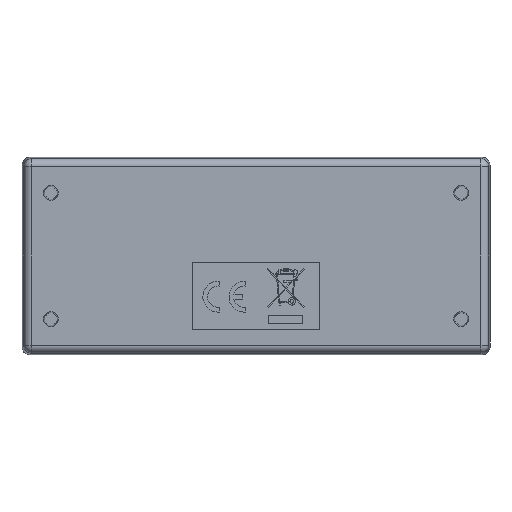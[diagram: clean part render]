
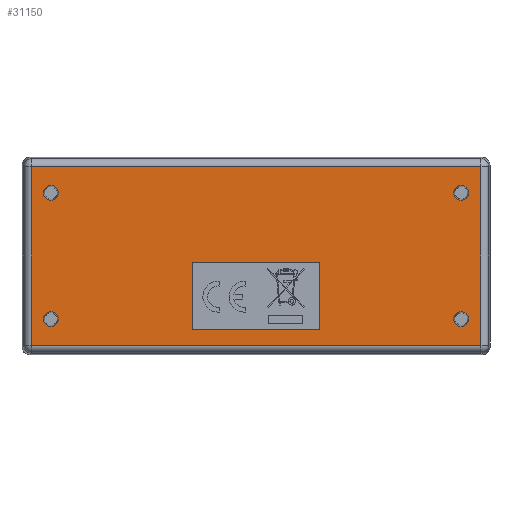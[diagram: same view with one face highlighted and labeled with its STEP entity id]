
A CAD part, front view. The second image highlights one B-rep face of the part: STEP entity #31150.
In plain terms, the highlighted planar face has unit normal (0, -1, 0) as drawn and (0, 0, -1) by its records, which use the part's own axes.
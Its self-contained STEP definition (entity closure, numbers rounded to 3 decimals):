
#14861=CIRCLE('',#32669,0.122);
#14862=CIRCLE('',#32670,0.122);
#14863=CIRCLE('',#32671,0.122);
#14864=CIRCLE('',#32672,0.122);
#15945=VERTEX_POINT('',#41580);
#15946=VERTEX_POINT('',#41582);
#15948=VERTEX_POINT('',#41588);
#15950=VERTEX_POINT('',#41594);
#16071=VERTEX_POINT('',#42666);
#16072=VERTEX_POINT('',#42668);
#16073=VERTEX_POINT('',#42670);
#16074=VERTEX_POINT('',#42672);
#16075=VERTEX_POINT('',#42674);
#16076=VERTEX_POINT('',#42675);
#16077=VERTEX_POINT('',#42677);
#16078=VERTEX_POINT('',#42679);
#17880=VECTOR('',#35991,1.);
#17883=VECTOR('',#35995,1.);
#17886=VECTOR('',#35999,1.);
#17889=VECTOR('',#36003,1.);
#18050=VECTOR('',#36236,1.);
#18051=VECTOR('',#36237,1.);
#18052=VECTOR('',#36238,1.);
#18053=VECTOR('',#36239,1.);
#19932=LINE('',#41581,#17880);
#19935=LINE('',#41587,#17883);
#19938=LINE('',#41593,#17886);
#19941=LINE('',#41598,#17889);
#20102=LINE('',#42673,#18050);
#20103=LINE('',#42676,#18051);
#20104=LINE('',#42678,#18052);
#20105=LINE('',#42680,#18053);
#22178=EDGE_CURVE('',#15946,#15945,#19932,.F.);
#22181=EDGE_CURVE('',#15948,#15946,#19935,.F.);
#22184=EDGE_CURVE('',#15950,#15948,#19938,.F.);
#22187=EDGE_CURVE('',#15945,#15950,#19941,.F.);
#22368=EDGE_CURVE('',#16071,#16071,#14861,.F.);
#22369=EDGE_CURVE('',#16072,#16072,#14862,.F.);
#22370=EDGE_CURVE('',#16073,#16073,#14863,.F.);
#22371=EDGE_CURVE('',#16074,#16074,#14864,.F.);
#22372=EDGE_CURVE('',#16075,#16076,#20102,.T.);
#22373=EDGE_CURVE('',#16077,#16075,#20103,.T.);
#22374=EDGE_CURVE('',#16078,#16077,#20104,.T.);
#22375=EDGE_CURVE('',#16076,#16078,#20105,.T.);
#26434=ORIENTED_EDGE('',*,*,#22368,.T.);
#26435=ORIENTED_EDGE('',*,*,#22369,.T.);
#26436=ORIENTED_EDGE('',*,*,#22370,.T.);
#26437=ORIENTED_EDGE('',*,*,#22371,.T.);
#26438=ORIENTED_EDGE('',*,*,#22372,.F.);
#26439=ORIENTED_EDGE('',*,*,#22373,.F.);
#26440=ORIENTED_EDGE('',*,*,#22374,.F.);
#26441=ORIENTED_EDGE('',*,*,#22375,.F.);
#26442=ORIENTED_EDGE('',*,*,#22178,.T.);
#26443=ORIENTED_EDGE('',*,*,#22187,.T.);
#26444=ORIENTED_EDGE('',*,*,#22184,.T.);
#26445=ORIENTED_EDGE('',*,*,#22181,.T.);
#29076=EDGE_LOOP('',(#26434));
#29077=EDGE_LOOP('',(#26435));
#29078=EDGE_LOOP('',(#26436));
#29079=EDGE_LOOP('',(#26437));
#29080=EDGE_LOOP('',(#26438,#26439,#26440,#26441));
#29081=EDGE_LOOP('',(#26442,#26443,#26444,#26445));
#30153=FACE_BOUND('',#29076,.T.);
#30154=FACE_BOUND('',#29077,.T.);
#30155=FACE_BOUND('',#29078,.T.);
#30156=FACE_BOUND('',#29079,.T.);
#30157=FACE_BOUND('',#29080,.T.);
#30158=FACE_BOUND('',#29081,.T.);
#31150=ADVANCED_FACE('',(#30153,#30154,#30155,#30156,#30157,#30158),#45429,
 .F.);
#32668=AXIS2_PLACEMENT_3D('',#42664,#36227,$);
#32669=AXIS2_PLACEMENT_3D('',#42665,#36228,#36229);
#32670=AXIS2_PLACEMENT_3D('',#42667,#36230,#36231);
#32671=AXIS2_PLACEMENT_3D('',#42669,#36232,#36233);
#32672=AXIS2_PLACEMENT_3D('',#42671,#36234,#36235);
#35991=DIRECTION('',(-1.,0.,0.));
#35995=DIRECTION('',(0.,1.,0.));
#35999=DIRECTION('',(1.,0.,0.));
#36003=DIRECTION('',(0.,-1.,0.));
#36227=DIRECTION('',(0.,0.,1.));
#36228=DIRECTION('',(0.,0.,-1.));
#36229=DIRECTION('',(-0.122,0.,0.));
#36230=DIRECTION('',(0.,0.,-1.));
#36231=DIRECTION('',(-0.122,0.,0.));
#36232=DIRECTION('',(0.,0.,-1.));
#36233=DIRECTION('',(-0.122,0.,0.));
#36234=DIRECTION('',(0.,0.,-1.));
#36235=DIRECTION('',(-0.122,0.,0.));
#36236=DIRECTION('',(-1.,0.,0.));
#36237=DIRECTION('',(0.,1.,0.));
#36238=DIRECTION('',(1.,0.,0.));
#36239=DIRECTION('',(0.,-1.,0.));
#41580=CARTESIAN_POINT('',(1.186,-1.018,-0.003));
#41581=CARTESIAN_POINT('',(0.161,-1.018,-0.003));
#41582=CARTESIAN_POINT('',(0.104,-1.018,-0.003));
#41587=CARTESIAN_POINT('',(0.104,0.,-0.003));
#41588=CARTESIAN_POINT('',(0.104,1.018,-0.003));
#41593=CARTESIAN_POINT('',(0.161,1.018,-0.003));
#41594=CARTESIAN_POINT('',(1.186,1.018,-0.003));
#41598=CARTESIAN_POINT('',(1.186,0.,-0.003));
#42664=CARTESIAN_POINT('',(0.,0.,-0.003));
#42665=CARTESIAN_POINT('',(1.016,3.302,-0.003));
#42666=CARTESIAN_POINT('',(1.138,3.302,-0.003));
#42667=CARTESIAN_POINT('',(1.016,-3.302,-0.003));
#42668=CARTESIAN_POINT('',(1.138,-3.302,-0.003));
#42669=CARTESIAN_POINT('',(-1.016,-3.302,-0.003));
#42670=CARTESIAN_POINT('',(-0.894,-3.302,-0.003));
#42671=CARTESIAN_POINT('',(-1.016,3.302,-0.003));
#42672=CARTESIAN_POINT('',(-0.894,3.302,-0.003));
#42673=CARTESIAN_POINT('',(0.,3.617,-0.003));
#42674=CARTESIAN_POINT('',(1.439,3.617,-0.003));
#42675=CARTESIAN_POINT('',(-1.439,3.617,-0.003));
#42676=CARTESIAN_POINT('',(1.439,0.,-0.003));
#42677=CARTESIAN_POINT('',(1.439,-3.617,-0.003));
#42678=CARTESIAN_POINT('',(0.,-3.617,-0.003));
#42679=CARTESIAN_POINT('',(-1.439,-3.617,-0.003));
#42680=CARTESIAN_POINT('',(-1.439,0.,-0.003));
#45429=PLANE('',#32668);
